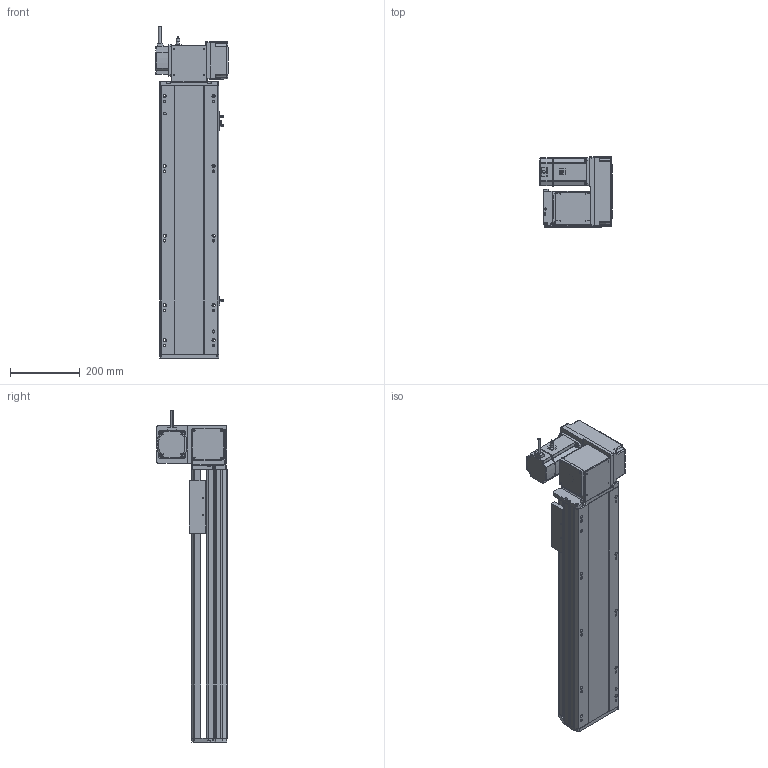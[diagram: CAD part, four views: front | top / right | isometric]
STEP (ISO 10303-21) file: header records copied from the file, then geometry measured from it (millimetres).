
FILE_DESCRIPTION (( 'STEP AP214' ), '1' );
FILE_NAME ('RTB17S-XX-500-RW-M75-C4.STEP', '2025-12-12T02:32:55', ( '' ), ( '' ), 'SwSTEP 2.0', 'SolidWorks 2018', '' );
FILE_SCHEMA (( 'AUTOMOTIVE_DESIGN' ));
Length unit declared in the file: millimetre
Products named in the file (15): RTB17S-L-007奻裔^RTB17S-XX-XX-RW-M75-C4; RTB22S-GY-018P^RTB17S-RW-々湍釱蚾饜-750W_RTB17S-XX-XX-RW-M75-C4; RTH13-BL-012覜茼え俋离^RTB17S-賑釱_RTB17S-XX-XX-RW-M75-C4; 750W萇儂^RTB17S-XX-XX-RW-M75-C4; RTB17-R-011菁釱^RTB17S-XX-XX-RW-M75-C4; RTB22S-GY-008-M75--萇儂啣^RTB17S-RW-々湍釱蚾饜-750W_RTB17S-XX-XX-RW-M75-C4; RTB17S-XX-500-RW-M75-C4; EE672^RTB17S-XX-XX-RW-M75-C4; RTB22S-GY-005P^RTB17S-RW-々湍釱蚾饜-750W_RTB17S-XX-XX-RW-M75-C4; RTB17S-L-001-耜醱啣^RTB17S-XX-XX-RW-M75-C4; RTB17S-L-004-賑釱^RTB17S-賑釱_RTB17S-XX-XX-RW-M75-C4; RMP17S-L-014-T20-P75--々湍釱^RTB17S-RW-々湍釱蚾饜-750W_RTB17S-XX-XX-RW-M75-C4; RTB17S-賑釱^RTB17S-XX-XX-RW-M75-C4; RTB22S-GY-017P^RTB17S-RW-々湍釱蚾饜-750W_RTB17S-XX-XX-RW-M75-C4; RTB17S-RW-々湍釱蚾饜-750W^RTB17S-XX-XX-RW-M75-C4
Assembly tree (17 placements, depth 3):
  RTB17S-XX-500-RW-M75-C4
    RTB17-R-011菁釱^RTB17S-XX-XX-RW-M75-C4
    EE672^RTB17S-XX-XX-RW-M75-C4  x3
    RTB17S-L-001-耜醱啣^RTB17S-XX-XX-RW-M75-C4
    RTB17S-賑釱^RTB17S-XX-XX-RW-M75-C4
      RTB17S-L-004-賑釱^RTB17S-賑釱_RTB17S-XX-XX-RW-M75-C4
      RTH13-BL-012覜茼え俋离^RTB17S-賑釱_RTB17S-XX-XX-RW-M75-C4
    RTB17S-L-007奻裔^RTB17S-XX-XX-RW-M75-C4
    750W萇儂^RTB17S-XX-XX-RW-M75-C4
    RTB17S-RW-々湍釱蚾饜-750W^RTB17S-XX-XX-RW-M75-C4
      RMP17S-L-014-T20-P75--々湍釱^RTB17S-RW-々湍釱蚾饜-750W_RTB17S-XX-XX-RW-M75-C4
      RTB22S-GY-005P^RTB17S-RW-々湍釱蚾饜-750W_RTB17S-XX-XX-RW-M75-C4
      RTB22S-GY-017P^RTB17S-RW-々湍釱蚾饜-750W_RTB17S-XX-XX-RW-M75-C4  x2
      RTB22S-GY-008-M75--萇儂啣^RTB17S-RW-々湍釱蚾饜-750W_RTB17S-XX-XX-RW-M75-C4
      RTB22S-GY-018P^RTB17S-RW-々湍釱蚾饜-750W_RTB17S-XX-XX-RW-M75-C4
Bounding box: 207.4 x 201.5 x 952.2 mm (x, y, z)
Volume: 9072938.5 mm3; surface area: 1457653.8 mm2
Topology: 17 solids, 17 shells, 2057 faces, 5674 edges, 3662 vertices
Faces by surface type: plane 966, cylinder 675, bspline 294, cone 110, sphere 8, torus 4
Entity records: 56566 total; most frequent: CARTESIAN_POINT 16538, ORIENTED_EDGE 8192, DIRECTION 7682, EDGE_CURVE 4096, AXIS2_PLACEMENT_3D 2682, VERTEX_POINT 2666, VECTOR 2318, LINE 2318
